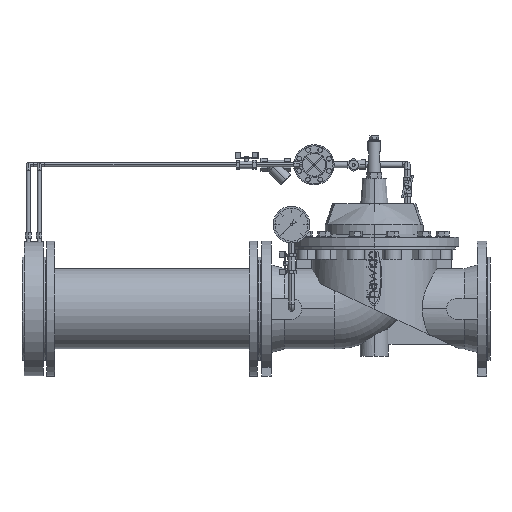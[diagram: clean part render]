
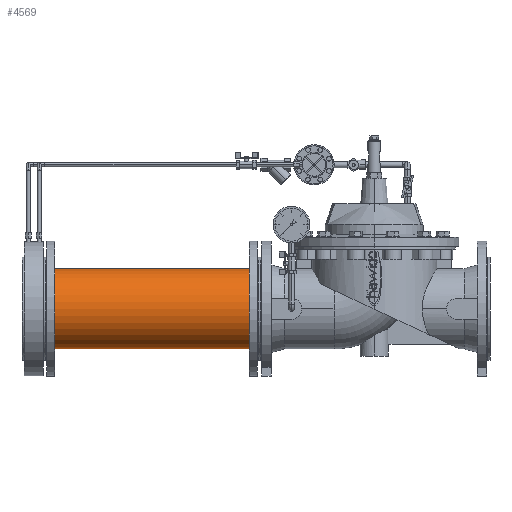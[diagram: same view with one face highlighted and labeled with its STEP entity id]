
A CAD part, front view. The second image highlights one B-rep face of the part: STEP entity #4569.
In plain terms, the highlighted cylindrical face has radius 85 mm (diameter 170 mm), a partial arc.
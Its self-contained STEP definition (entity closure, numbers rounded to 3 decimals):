
#4569=ADVANCED_FACE('',(#7985),#7986,.T.);
#7985=FACE_OUTER_BOUND('',#11390,.T.);
#7986=CYLINDRICAL_SURFACE('',#11391,85.0);
#11390=EDGE_LOOP('',(#21711,#21712,#21713,#21714));
#11391=AXIS2_PLACEMENT_3D('',#21715,#21716,#21717);
#21711=ORIENTED_EDGE('',*,*,#25683,.T.);
#21712=ORIENTED_EDGE('',*,*,#25693,.T.);
#21713=ORIENTED_EDGE('',*,*,#25685,.T.);
#21714=ORIENTED_EDGE('',*,*,#25694,.T.);
#21715=CARTESIAN_POINT('',(-875.83,0.57,0.));
#21716=DIRECTION('',(1.0,0.0,0.));
#21717=DIRECTION('',(0.,0.0,-1.0));
#25683=EDGE_CURVE('',#31087,#31088,#31089,.T.);
#25685=EDGE_CURVE('',#31092,#31090,#31093,.T.);
#25693=EDGE_CURVE('',#31088,#31092,#31105,.T.);
#25694=EDGE_CURVE('',#31090,#31087,#31106,.T.);
#31087=VERTEX_POINT('',#39259);
#31088=VERTEX_POINT('',#39260);
#31089=LINE('',#39261,#39262);
#31090=VERTEX_POINT('',#39263);
#31092=VERTEX_POINT('',#39265);
#31093=LINE('',#39266,#39267);
#31105=CIRCLE('',#39281,85.0);
#31106=CIRCLE('',#39282,85.0);
#39259=CARTESIAN_POINT('',(-931.33,0.57,-85.0));
#39260=CARTESIAN_POINT('',(-490.83,0.57,-85.0));
#39261=CARTESIAN_POINT('',(-875.83,0.57,-85.0));
#39262=VECTOR('',#44350,1.0);
#39263=CARTESIAN_POINT('',(-931.33,0.57,85.0));
#39265=CARTESIAN_POINT('',(-490.83,0.57,85.0));
#39266=CARTESIAN_POINT('',(-875.83,0.57,85.0));
#39267=VECTOR('',#44354,1.0);
#39281=AXIS2_PLACEMENT_3D('',#44372,#44373,#44374);
#39282=AXIS2_PLACEMENT_3D('',#44375,#44376,#44377);
#44350=DIRECTION('',(1.0,0.0,0.));
#44354=DIRECTION('',(-1.0,-0.0,0.));
#44372=CARTESIAN_POINT('',(-490.83,0.57,0.));
#44373=DIRECTION('',(-1.0,-0.0,0.));
#44374=DIRECTION('',(0.,0.0,-1.0));
#44375=CARTESIAN_POINT('',(-931.33,0.57,0.));
#44376=DIRECTION('',(1.0,0.0,0.));
#44377=DIRECTION('',(0.,0.0,-1.0));
